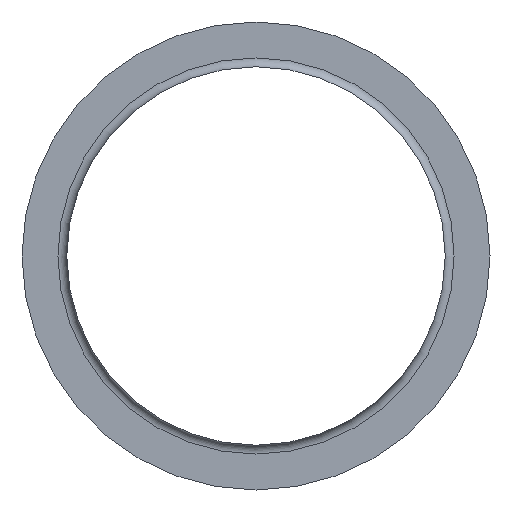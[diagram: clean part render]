
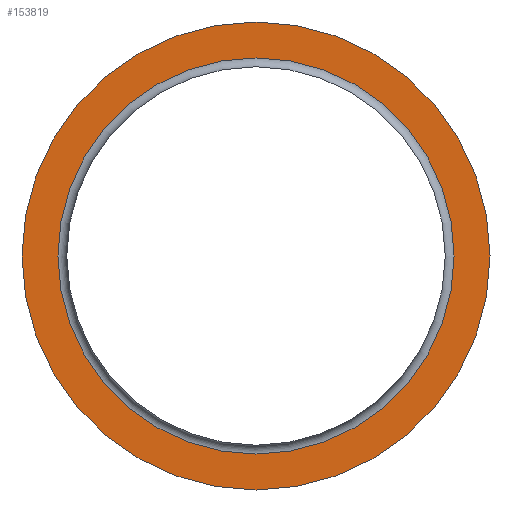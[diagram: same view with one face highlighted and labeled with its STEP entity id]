
A CAD part, front view. The second image highlights one B-rep face of the part: STEP entity #153819.
In plain terms, the highlighted planar face has unit normal (0, -1, 0).
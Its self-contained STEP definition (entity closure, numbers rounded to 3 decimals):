
#19126=PLANE('',#177872);
#20764=FACE_BOUND('',#40622,.T.);
#28991=FACE_OUTER_BOUND('',#40621,.T.);
#40621=EDGE_LOOP('',(#128067));
#40622=EDGE_LOOP('',(#128068));
#57476=CIRCLE('',#177869,16.75);
#57478=CIRCLE('',#177873,19.789);
#69787=VERTEX_POINT('',#302548);
#69789=VERTEX_POINT('',#302554);
#89820=EDGE_CURVE('',#69787,#69787,#57476,.T.);
#89822=EDGE_CURVE('',#69789,#69789,#57478,.T.);
#128067=ORIENTED_EDGE('',*,*,#89822,.F.);
#128068=ORIENTED_EDGE('',*,*,#89820,.F.);
#153819=ADVANCED_FACE('',(#28991,#20764),#19126,.T.);
#177869=AXIS2_PLACEMENT_3D('',#302549,#226854,#226855);
#177872=AXIS2_PLACEMENT_3D('',#302553,#226860,#226861);
#177873=AXIS2_PLACEMENT_3D('',#302555,#226862,#226863);
#226854=DIRECTION('center_axis',(0.,-1.,0.));
#226855=DIRECTION('ref_axis',(1.,0.,0.));
#226860=DIRECTION('center_axis',(0.,-1.,0.));
#226861=DIRECTION('ref_axis',(0.,0.,-1.));
#226862=DIRECTION('center_axis',(0.,1.,0.));
#226863=DIRECTION('ref_axis',(1.,0.,0.));
#302548=CARTESIAN_POINT('',(-16.75,17.934,0.));
#302549=CARTESIAN_POINT('Origin',(0.,17.934,0.));
#302553=CARTESIAN_POINT('Origin',(-20.301,17.934,0.));
#302554=CARTESIAN_POINT('',(-19.789,17.934,0.));
#302555=CARTESIAN_POINT('Origin',(0.,17.934,0.));
